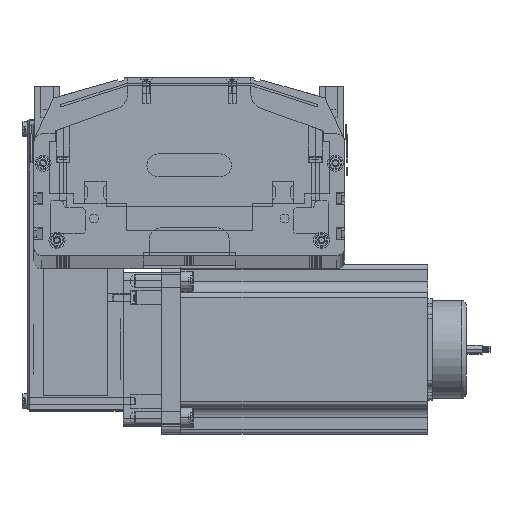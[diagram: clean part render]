
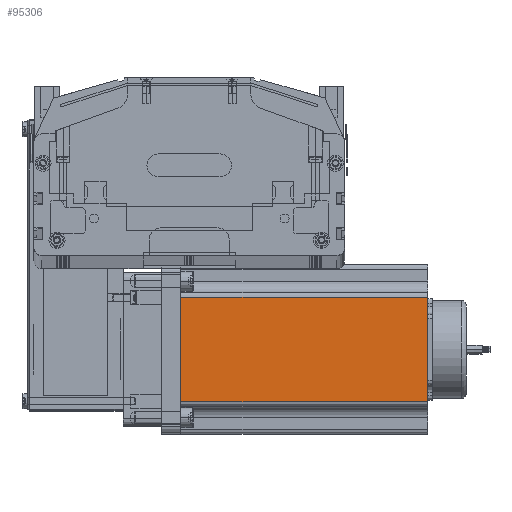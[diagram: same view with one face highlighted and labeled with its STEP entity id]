
A CAD part, top view. The second image highlights one B-rep face of the part: STEP entity #95306.
In plain terms, the highlighted planar face has unit normal (0, 0, 1) as drawn and (0, -1, 0) by its records, which use the part's own axes.
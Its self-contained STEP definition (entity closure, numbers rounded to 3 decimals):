
#21249 = DIRECTION ( 'NONE',  ( 0., 0., 1. ) ) ;
#21250 = DIRECTION ( 'NONE',  ( 0., 1., 0. ) ) ;
#21254 = PLANE ( 'NONE',  #21309 ) ;
#21255 = CARTESIAN_POINT ( 'NONE',  ( 21.048, 0., 160.5 ) ) ;
#21268 = CARTESIAN_POINT ( 'NONE',  ( 88.952, 0., 0. ) ) ;
#21284 = DIRECTION ( 'NONE',  ( 0., 0., 1. ) ) ;
#21285 = VECTOR ( 'NONE', #21284, 1000. ) ;
#21286 = CARTESIAN_POINT ( 'NONE',  ( 88.952, 0., 160.5 ) ) ;
#21287 = LINE ( 'NONE', #21286, #21285 ) ;
#21299 = FACE_OUTER_BOUND ( 'NONE', #95355, .T. ) ;
#21304 = CARTESIAN_POINT ( 'NONE',  ( 0., 0., 160.5 ) ) ;
#21305 = CARTESIAN_POINT ( 'NONE',  ( 88.952, 0., 160.5 ) ) ;
#21309 = AXIS2_PLACEMENT_3D ( 'NONE', #21304, #21250, #21249 ) ;
#21316 = DIRECTION ( 'NONE',  ( 1., 0., 0. ) ) ;
#21317 = VECTOR ( 'NONE', #21316, 1000. ) ;
#21344 = LINE ( 'NONE', #21349, #21317 ) ;
#21349 = CARTESIAN_POINT ( 'NONE',  ( 0., 0., 0. ) ) ;
#21351 = CARTESIAN_POINT ( 'NONE',  ( 21.048, 0., 0. ) ) ;
#21422 = LINE ( 'NONE', #21491, #21490 ) ;
#21427 = DIRECTION ( 'NONE',  ( 1., 0., 0. ) ) ;
#21428 = VECTOR ( 'NONE', #21427, 1000. ) ;
#21440 = CARTESIAN_POINT ( 'NONE',  ( 0., 0., 160.5 ) ) ;
#21441 = LINE ( 'NONE', #21440, #21428 ) ;
#21489 = DIRECTION ( 'NONE',  ( 0., 0., -1. ) ) ;
#21490 = VECTOR ( 'NONE', #21489, 1000. ) ;
#21491 = CARTESIAN_POINT ( 'NONE',  ( 21.048, 0., 160.5 ) ) ;
#66362 = ORIENTED_EDGE ( 'NONE', *, *, #95399, .F. ) ;
#95289 = ORIENTED_EDGE ( 'NONE', *, *, #95331, .T. ) ;
#95299 = VERTEX_POINT ( 'NONE', #21305 ) ;
#95301 = VERTEX_POINT ( 'NONE', #21255 ) ;
#95306 = ADVANCED_FACE ( 'NONE', ( #21299 ), #21254, .F. ) ;
#95308 = VERTEX_POINT ( 'NONE', #21268 ) ;
#95313 = ORIENTED_EDGE ( 'NONE', *, *, #95318, .T. ) ;
#95318 = EDGE_CURVE ( 'NONE', #95308, #95299, #21287, .T. ) ;
#95331 = EDGE_CURVE ( 'NONE', #95350, #95308, #21344, .T. ) ;
#95350 = VERTEX_POINT ( 'NONE', #21351 ) ;
#95355 = EDGE_LOOP ( 'NONE', ( #95289, #95313, #66362, #95407 ) ) ;
#95399 = EDGE_CURVE ( 'NONE', #95301, #95299, #21441, .T. ) ;
#95402 = EDGE_CURVE ( 'NONE', #95301, #95350, #21422, .T. ) ;
#95407 = ORIENTED_EDGE ( 'NONE', *, *, #95402, .T. ) ;
